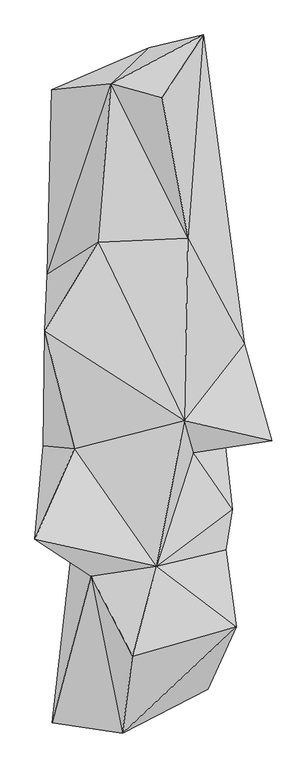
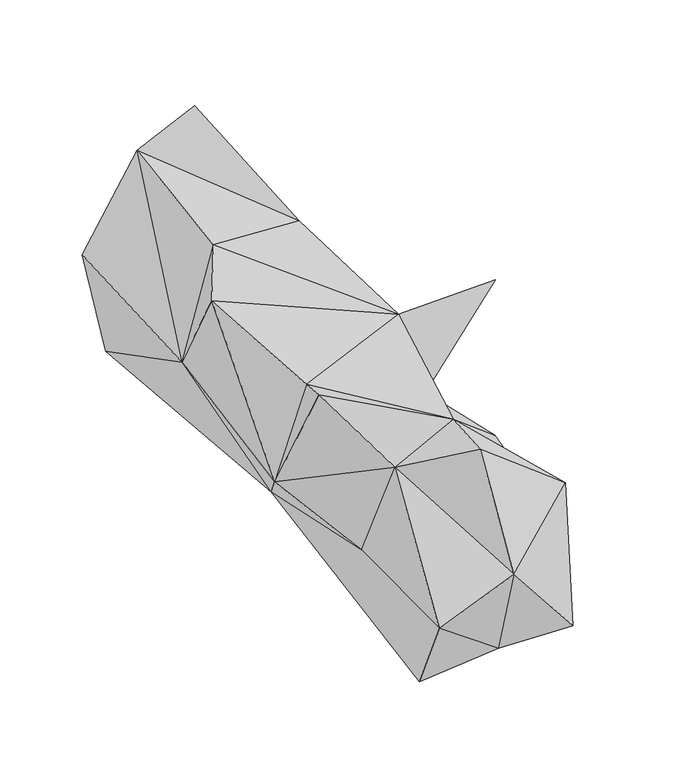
"""IFC4 building model written with IfcOpenShell, lengths in millimetres: geographic element geometry, Enscape AssetDefinition - Potted Plant 250 Snake Plant : Enscape AssetDefinition - Potted Plant 250 Snake Plant 2."""

import ifcopenshell
import ifcopenshell.guid

model = None  # the IFC model being written
_history = None  # IfcOwnerHistory: only IFC2X3 demands one
_inside = {}  # id of a spatial element -> (the spatial element, [elements in it])
_under = {}  # id of a project, library or spatial element -> (it, [spatial elements below it])
_declared = {}  # id of a project -> (the project, [libraries it declares])
_typed = {}  # id of a type object -> (the type object, [elements of that type])
_made_of = {}  # id of a material, layer set ... -> (it, [elements and type objects made of it])


def new_model(schema):
    """Start an empty IFC model of exactly this schema.

    Asked for "IFC4X3", IfcOpenShell would pick the latest addendum, in which some entities
    have other attributes; the version numbers below select the first issue.
    IFC2X3 requires an IfcOwnerHistory on every rooted entity: one is made here for all.
    """
    global model, _history
    if schema == "IFC4X3":
        model = ifcopenshell.file(schema_version=(4, 3, 0, 0))
    else:
        model = ifcopenshell.file(schema=schema)
    _inside.clear()
    _under.clear()
    _declared.clear()
    _typed.clear()
    _made_of.clear()
    _history = None
    if model.schema == "IFC2X3":
        org = make("IfcOrganization", Name="unknown")
        user = make(
            "IfcPersonAndOrganization",
            ThePerson=make("IfcPerson", FamilyName="unknown"),
            TheOrganization=org,
        )
        app = make(
            "IfcApplication",
            ApplicationDeveloper=org,
            Version="unknown",
            ApplicationFullName="unknown",
            ApplicationIdentifier="unknown",
        )
        _history = make(
            "IfcOwnerHistory",
            OwningUser=user,
            OwningApplication=app,
            ChangeAction="ADDED",
            CreationDate=0,
        )
    return model


def make(cls, **values):
    """One entity of the class cls with the attributes given. An attribute that is None is left unset."""
    return model.create_entity(
        cls, **{name: value for name, value in values.items() if value is not None}
    )


def rooted(cls, **values):
    """An entity with a GlobalId (a new one), such as an element, a storey or a relation."""
    return make(cls, GlobalId=ifcopenshell.guid.new(), OwnerHistory=_history, **values)


def si_unit(unit_type, name, prefix=None):
    """IfcSIUnit, for example si_unit("LENGTHUNIT", "METRE", prefix="MILLI")."""
    return make("IfcSIUnit", UnitType=unit_type, Prefix=prefix, Name=name)


def assignment(units):
    """IfcUnitAssignment: the units of a project."""
    return None if units is None else make("IfcUnitAssignment", Units=units)


def point(xyz):
    """IfcCartesianPoint."""
    return None if xyz is None else make("IfcCartesianPoint", Coordinates=xyz)


def direction(xyz):
    """IfcDirection."""
    return None if xyz is None else make("IfcDirection", DirectionRatios=xyz)


def frame(location, z_axis=None, x_axis=None):
    """IfcAxis2Placement3D, a coordinate frame: its origin and axes. An axis left out is left unset."""
    return make(
        "IfcAxis2Placement3D",
        Location=point(location),
        Axis=direction(z_axis),
        RefDirection=direction(x_axis),
    )


def origin():
    """The frame at (0, 0, 0) with its axes left unset."""
    return frame((0.0, 0.0, 0.0))


def place(relative_to, where):
    """IfcLocalPlacement: puts the frame where relative to a parent placement (None: the world)."""
    return make(
        "IfcLocalPlacement", PlacementRelTo=relative_to, RelativePlacement=where
    )


def context(
    kind, dimensions, precision=None, world=None, true_north=None, identifier=None
):
    """IfcGeometricRepresentationContext, for example the 3D "Model" context."""
    return make(
        "IfcGeometricRepresentationContext",
        ContextIdentifier=identifier,
        ContextType=kind,
        CoordinateSpaceDimension=dimensions,
        Precision=precision,
        WorldCoordinateSystem=world,
        TrueNorth=true_north,
    )


def project(units=None, contexts=None):
    """IfcProject with its units and contexts."""
    return rooted(
        "IfcProject",
        Name="project",
        RepresentationContexts=contexts,
        UnitsInContext=assignment(units),
    )


def spatial(cls, under=None, at=None, **own):
    """A site, building, storey or space (cls), placed at a placement, below another one or the project."""
    s = rooted(cls, ObjectPlacement=at, **own)
    if under is not None:
        _under.setdefault(under.id(), (under, []))[1].append(s)
    return s


def point_list(points):
    """IfcCartesianPointList2D or 3D."""
    cls = (
        "IfcCartesianPointList2D" if len(points[0]) == 2 else "IfcCartesianPointList3D"
    )
    return make(cls, CoordList=points)


def triangles(points, corners, closed=None, point_numbers=None):
    """IfcTriangulatedFaceSet: each triangle names its three corners, points numbered from 1."""
    return make(
        "IfcTriangulatedFaceSet",
        Coordinates=point_list(points),
        Closed=closed,
        CoordIndex=corners,
        PnIndex=point_numbers,
    )


def shape(context_of_items, identifier, shape_type, items):
    """IfcShapeRepresentation: the items that make up one representation, for example the "Body"."""
    return make(
        "IfcShapeRepresentation",
        ContextOfItems=context_of_items,
        RepresentationIdentifier=identifier,
        RepresentationType=shape_type,
        Items=items,
    )


def source(mapping_origin, context_of_items, identifier, shape_type, items):
    """IfcRepresentationMap: a shape defined once, which mapped items show again and again."""
    return make(
        "IfcRepresentationMap",
        MappingOrigin=mapping_origin,
        MappedRepresentation=shape(context_of_items, identifier, shape_type, items),
    )


def transform(
    local_origin,
    x_axis=None,
    y_axis=None,
    z_axis=None,
    scale=None,
    scale2=None,
    scale3=None,
    uniform=True,
):
    """IfcCartesianTransformationOperator3D, or its non-uniform kind. x_axis, y_axis, z_axis: its Axis1, 2, 3."""
    if uniform:
        return make(
            "IfcCartesianTransformationOperator3D",
            Axis1=direction(x_axis),
            Axis2=direction(y_axis),
            LocalOrigin=point(local_origin),
            Scale=scale,
            Axis3=direction(z_axis),
        )
    return make(
        "IfcCartesianTransformationOperator3DnonUniform",
        Axis1=direction(x_axis),
        Axis2=direction(y_axis),
        LocalOrigin=point(local_origin),
        Scale=scale,
        Axis3=direction(z_axis),
        Scale2=scale2,
        Scale3=scale3,
    )


def mapped(mapping_source, mapping_target):
    """IfcMappedItem: shows the shape of a source again, moved by a transform."""
    return make(
        "IfcMappedItem", MappingSource=mapping_source, MappingTarget=mapping_target
    )


def made_of(thing, what):
    """Note that an element or type object is made of a material, layer set ...; save() writes the relation."""
    if what is not None:
        _made_of.setdefault(what.id(), (what, []))[1].append(thing)
    return thing


def element(
    cls,
    number,
    at=None,
    inside=None,
    cuts=None,
    type_object=None,
    material=None,
    context=None,
    identifier="Body",
    shape_type=None,
    held_by="IfcProductDefinitionShape",
    body=None,
    shapes=None,
    **own,
):
    """One element of the class cls, such as IfcWall. Its Tag is "e" and its number.

    at: its placement. inside: the storey or other place that contains it. cuts: it is an
    opening in that element (IfcRelVoidsElement). A single representation is given by context,
    identifier, shape_type and body (its items); several are given by shapes. held_by: the class
    of the entity that holds the representations. save() writes the other relations.
    """
    e = rooted(cls, Tag="e%d" % number, ObjectPlacement=at, **own)
    if body is not None:
        shapes = [shape(context, identifier, shape_type, body)]
    if shapes is not None:
        e.Representation = make(held_by, Representations=shapes)
    if inside is not None:
        _inside.setdefault(inside.id(), (inside, []))[1].append(e)
    if cuts is not None:
        rooted(
            "IfcRelVoidsElement", RelatingBuildingElement=cuts, RelatedOpeningElement=e
        )
    if type_object is not None:
        _typed.setdefault(type_object.id(), (type_object, []))[1].append(e)
    return made_of(e, material)


def aggregate(whole, parts):
    """IfcRelAggregates: a whole, such as a stair, and the parts it consists of."""
    return rooted("IfcRelAggregates", RelatingObject=whole, RelatedObjects=parts)


def save(model, path):
    """Write the relations noted so far, then the file.

    IfcRelAggregates (storeys below a building ...), IfcRelContainedInSpatialStructure (elements
    in a storey), IfcRelDefinesByType, IfcRelAssociatesMaterial and IfcRelDeclares: one each for
    every whole, place, type object, material and project.
    """
    for whole, parts in _under.values():
        aggregate(whole, parts)
    for where, things in _inside.values():
        rooted(
            "IfcRelContainedInSpatialStructure",
            RelatedElements=things,
            RelatingStructure=where,
        )
    for kind, things in _typed.values():
        rooted("IfcRelDefinesByType", RelatedObjects=things, RelatingType=kind)
    for what, things in _made_of.values():
        rooted("IfcRelAssociatesMaterial", RelatedObjects=things, RelatingMaterial=what)
    for by, libraries in _declared.values():
        rooted("IfcRelDeclares", RelatingContext=by, RelatedDefinitions=libraries)
    model.write(path)


def geographic_element_a5f2ebed(model_context):
    return source(origin(), model_context, "Body", "Tessellation", [
        triangles([(-21.7030108, -785.476692, 634.880579), (-49.3138686, -1001.8177019, 396.5782642), (190.5079392, -878.1977766, 81.6801797), (39.8423264, -769.3699717, 0.0), (-137.7670451, -560.8327732, 485.1646448), (241.2683583, -486.4154769, 333.3084343), (270.947724, -703.5625786, 381.3343909), (198.5375726, -521.8231267, 116.4983487), (103.2789612, 100.7935206, 0.0), (46.3686314, -534.051123, 550.9257108), (150.0274704, -215.1272395, 402.9482243), (259.4597988, -372.7360785, 329.7400838), (214.5354152, 32.1694231, 206.1792028), (370.3560639, -180.8418323, 647.3899899), (292.9646032, 91.1494055, 297.9065436), (134.880884, 387.7391235, 564.0177169), (177.4761765, 958.7278902, 304.2127539), (197.3156814, 715.8102322, 0.0), (24.4629372, 923.0294878, 100.9973509), (62.0259833, 782.4596523, 700.0000053), (-118.636336, 376.8268172, 586.4341902), (-248.6980647, 804.7521143, 342.4765157), (-81.8400082, 821.1646299, 591.1132287), (-111.777634, 102.1161507, 0.0), (-4.733455, 699.2588442, 0.0), (-190.0539335, 788.7948761, 37.4090016), (-260.8009778, 286.966441, 333.8735888), (124.1006009, -124.8128848, 594.8645259), (-267.7118023, 126.9566584, 619.5521542), (-184.502837, -202.7336283, 536.511111), (-272.4406016, -195.5691673, 266.1424396), (-192.4641061, -489.4244139, 209.8575575), (-296.0175419, -457.2584267, 698.3878218), (-203.3694725, -796.9241037, 0.0), (-247.5966239, -973.3416784, 284.1010999)], [[9, 4, 24], [4, 34, 24], [34, 4, 35], [34, 35, 32], [32, 24, 34], [35, 5, 32], [33, 5, 10], [10, 28, 30], [30, 33, 10], [33, 31, 5], [31, 24, 32], [5, 31, 32], [33, 30, 31], [30, 29, 31], [30, 28, 29], [29, 28, 21], [21, 27, 29], [29, 27, 31], [31, 27, 24], [26, 27, 22], [24, 27, 26], [25, 24, 26], [9, 24, 25], [26, 22, 19], [25, 26, 19], [27, 21, 23], [19, 22, 23], [22, 27, 23], [23, 16, 20], [21, 28, 16], [21, 16, 23], [16, 17, 20], [23, 17, 19], [23, 20, 17], [25, 18, 9], [25, 19, 18], [19, 17, 18], [15, 18, 17], [28, 15, 16], [16, 15, 17], [15, 28, 14], [15, 9, 18], [9, 15, 13], [13, 15, 11], [15, 14, 11], [28, 10, 11], [28, 11, 14], [11, 12, 13], [13, 12, 9], [10, 12, 11], [10, 6, 12], [8, 4, 9], [12, 6, 8], [12, 8, 9], [4, 8, 3], [10, 7, 6], [6, 7, 8], [3, 8, 7], [10, 1, 7], [10, 5, 1], [7, 2, 3], [35, 4, 2], [2, 5, 35], [1, 5, 2], [3, 2, 4], [1, 2, 7]]),
    ])


if __name__ == "__main__":
    model = new_model("IFC4")
    model_context = context("Model", 3, world=origin())
    ifc_project = project(units=[si_unit("LENGTHUNIT", "METRE", prefix="MILLI")], contexts=[model_context])
    site = spatial("IfcSite", under=ifc_project)
    building = spatial("IfcBuilding", under=site)
    placement = place(None, origin())
    geographic_element_shape = geographic_element_a5f2ebed(model_context)
    element("IfcGeographicElement", 1, ObjectType="Enscape AssetDefinition - Potted Plant 250 Snake Plant : Enscape AssetDefinition - Potted Plant 250 Snake Plant 2", at=placement, inside=building, context=model_context, shape_type="MappedRepresentation", body=[
        mapped(geographic_element_shape, transform((0.0, 0.0, 0.0), x_axis=(1.0, 0.0, 0.0), y_axis=(0.0, 1.0, 0.0), z_axis=(0.0, 0.0, 1.0))),
    ])
    save(model, "model.ifc")
